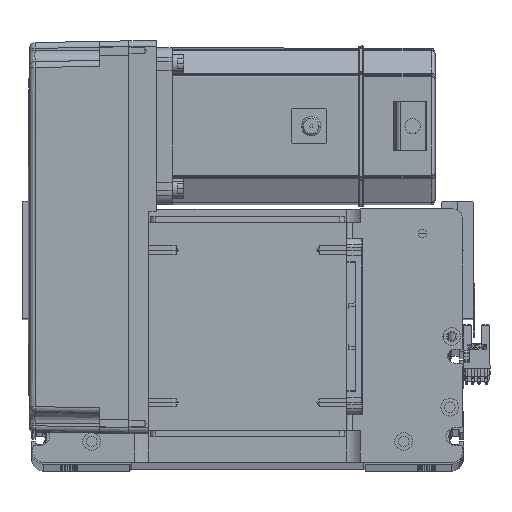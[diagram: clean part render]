
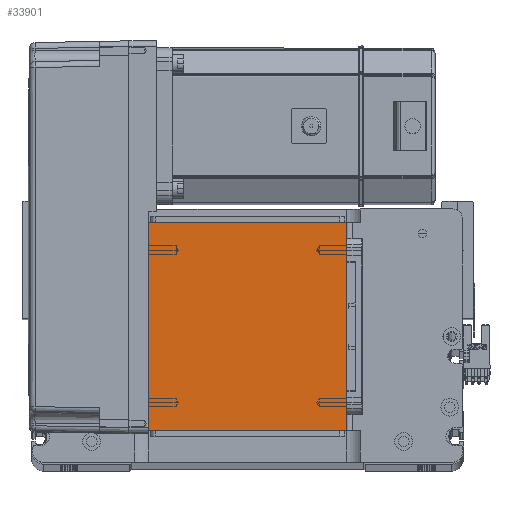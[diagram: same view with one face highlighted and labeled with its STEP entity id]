
A CAD part, top view. The second image highlights one B-rep face of the part: STEP entity #33901.
In plain terms, the highlighted planar face has unit normal (0, 0, 1).
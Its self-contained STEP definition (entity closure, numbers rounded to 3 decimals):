
#418 = CARTESIAN_POINT ( 'NONE',  ( 50.5, 122., 115. ) ) ;
#480 = VERTEX_POINT ( 'NONE', #52947 ) ;
#1854 = VECTOR ( 'NONE', #3816, 1000. ) ;
#3816 = DIRECTION ( 'NONE',  ( 0., 1., 0. ) ) ;
#6975 = CARTESIAN_POINT ( 'NONE',  ( -50.5, 16., 115. ) ) ;
#7101 = CARTESIAN_POINT ( 'NONE',  ( 50.5, 16., 115. ) ) ;
#9206 = VERTEX_POINT ( 'NONE', #51259 ) ;
#9962 = CARTESIAN_POINT ( 'NONE',  ( -50.5, 16., 115. ) ) ;
#10178 = PLANE ( 'NONE',  #45985 ) ;
#13306 = FACE_OUTER_BOUND ( 'NONE', #34664, .T. ) ;
#13626 = VERTEX_POINT ( 'NONE', #7101 ) ;
#14514 = DIRECTION ( 'NONE',  ( 0., 0., 1. ) ) ;
#15466 = ORIENTED_EDGE ( 'NONE', *, *, #30718, .T. ) ;
#15652 = EDGE_CURVE ( 'NONE', #22217, #13626, #16478, .T. ) ;
#16478 = LINE ( 'NONE', #9962, #23187 ) ;
#21988 = ORIENTED_EDGE ( 'NONE', *, *, #15652, .T. ) ;
#22133 = CARTESIAN_POINT ( 'NONE',  ( -50.5, 122., 115. ) ) ;
#22217 = VERTEX_POINT ( 'NONE', #6975 ) ;
#23187 = VECTOR ( 'NONE', #27155, 1000. ) ;
#23300 = DIRECTION ( 'NONE',  ( -1., 0., 0. ) ) ;
#24420 = LINE ( 'NONE', #44998, #50485 ) ;
#25965 = ORIENTED_EDGE ( 'NONE', *, *, #33174, .T. ) ;
#27155 = DIRECTION ( 'NONE',  ( 1., 0., 0. ) ) ;
#30718 = EDGE_CURVE ( 'NONE', #13626, #480, #41483, .T. ) ;
#32062 = VECTOR ( 'NONE', #52241, 1000. ) ;
#32152 = ORIENTED_EDGE ( 'NONE', *, *, #52151, .T. ) ;
#33174 = EDGE_CURVE ( 'NONE', #9206, #22217, #37452, .T. ) ;
#33901 = ADVANCED_FACE ( 'NONE', ( #13306 ), #10178, .T. ) ;
#34664 = EDGE_LOOP ( 'NONE', ( #25965, #21988, #15466, #32152 ) ) ;
#36182 = DIRECTION ( 'NONE',  ( 1., 0., 0. ) ) ;
#37452 = LINE ( 'NONE', #22133, #32062 ) ;
#40161 = CARTESIAN_POINT ( 'NONE',  ( 0., 0., 115. ) ) ;
#41483 = LINE ( 'NONE', #418, #1854 ) ;
#44998 = CARTESIAN_POINT ( 'NONE',  ( -50.5, 122., 115. ) ) ;
#45985 = AXIS2_PLACEMENT_3D ( 'NONE', #40161, #14514, #36182 ) ;
#50485 = VECTOR ( 'NONE', #23300, 1000. ) ;
#51259 = CARTESIAN_POINT ( 'NONE',  ( -50.5, 122., 115. ) ) ;
#52151 = EDGE_CURVE ( 'NONE', #480, #9206, #24420, .T. ) ;
#52241 = DIRECTION ( 'NONE',  ( 0., -1., 0. ) ) ;
#52947 = CARTESIAN_POINT ( 'NONE',  ( 50.5, 122., 115. ) ) ;
